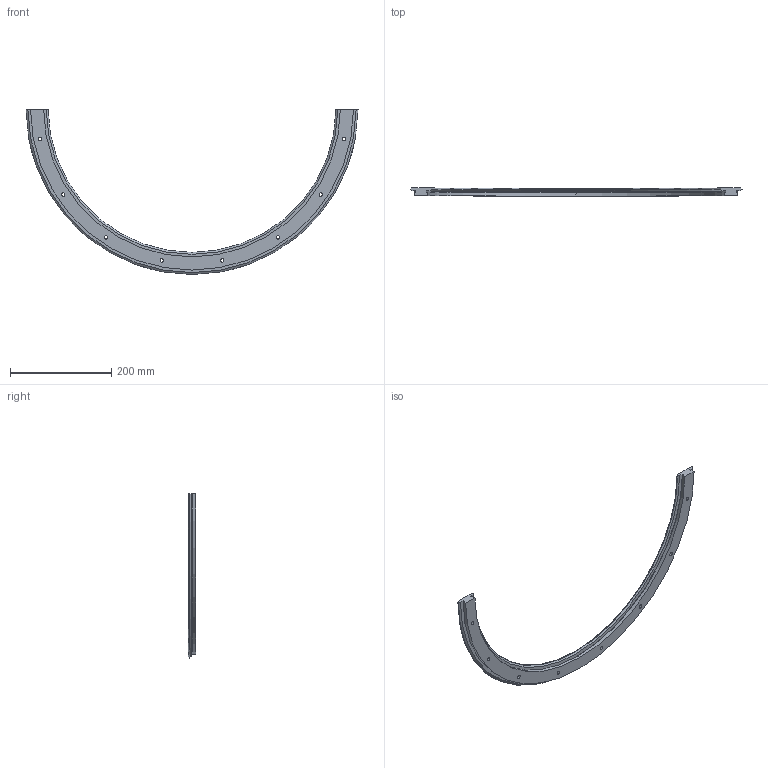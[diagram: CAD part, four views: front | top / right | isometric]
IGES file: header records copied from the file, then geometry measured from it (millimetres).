
Start section: 3D InterOp IGES (v. 2020 1.0.1), Spatial Corp. Copyright (c) 1999-2017.
Global section: file name: r44_612_r180.igs; native system: Spatial Corp.; preprocessor: 3D InterOp ACIS/IGES; author: TraceParts; organization: TraceParts S.A.; date: 20220624.070531; units: millimetre
Bounding box: 655.6 x 15.5 x 325.81 mm (x, y, z)
Surface area: 119825.8 mm2 (no closed solid volume)
Topology: 0 solids, 0 shells, 72 faces, 360 edges, 360 vertices
Faces by surface type: revolution 56, extrusion 16
